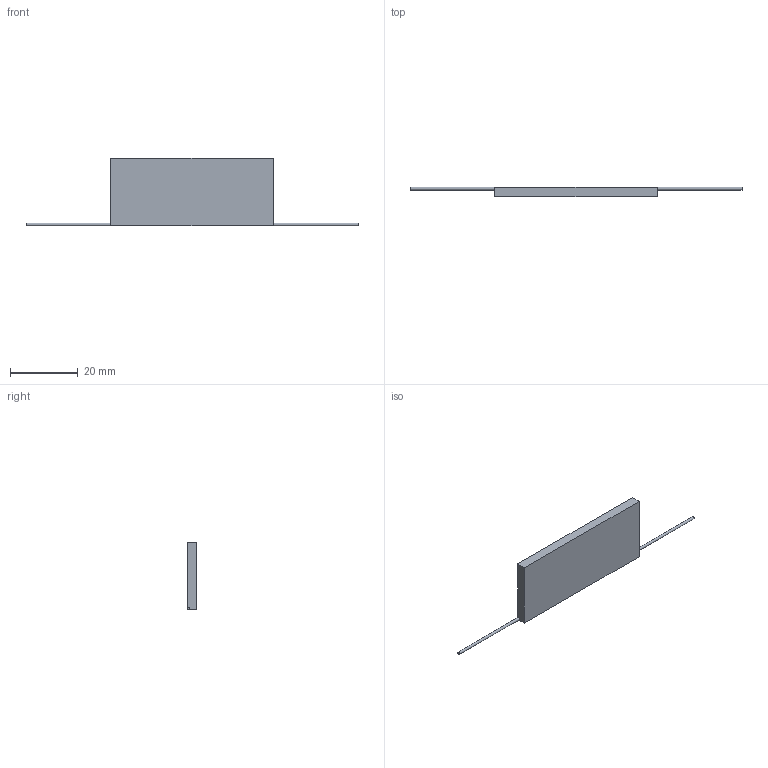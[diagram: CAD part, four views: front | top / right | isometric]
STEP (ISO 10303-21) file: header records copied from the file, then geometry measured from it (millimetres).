
FILE_DESCRIPTION(('STEP AP203'), '1');
FILE_NAME('R1-35-5-2', '', ('UNSPECIFIED'), ('UNSPECIFIED'), 'ASCON STEP Converter 1.6', 'ASCON Math Kernel', '');
FILE_SCHEMA(('CONFIG_CONTROL_DESIGN'));
Length unit declared in the file: millimetre
Bounding box: 98 x 2.8 x 20 mm (x, y, z)
Volume: 2713.1 mm3; surface area: 2426.5 mm2
Topology: 1 solids, 1 shells, 12 faces, 24 edges, 14 vertices
Faces by surface type: plane 10, cylinder 2
Full cylindrical faces by diameter (mm): 0.8 x2
Entity records: 436 total; most frequent: DIRECTION 54, CARTESIAN_POINT 49, ORIENTED_EDGE 44, EDGE_CURVE 22, AXIS2_PLACEMENT_3D 19, LINE 16, VECTOR 16, EDGE_LOOP 14
